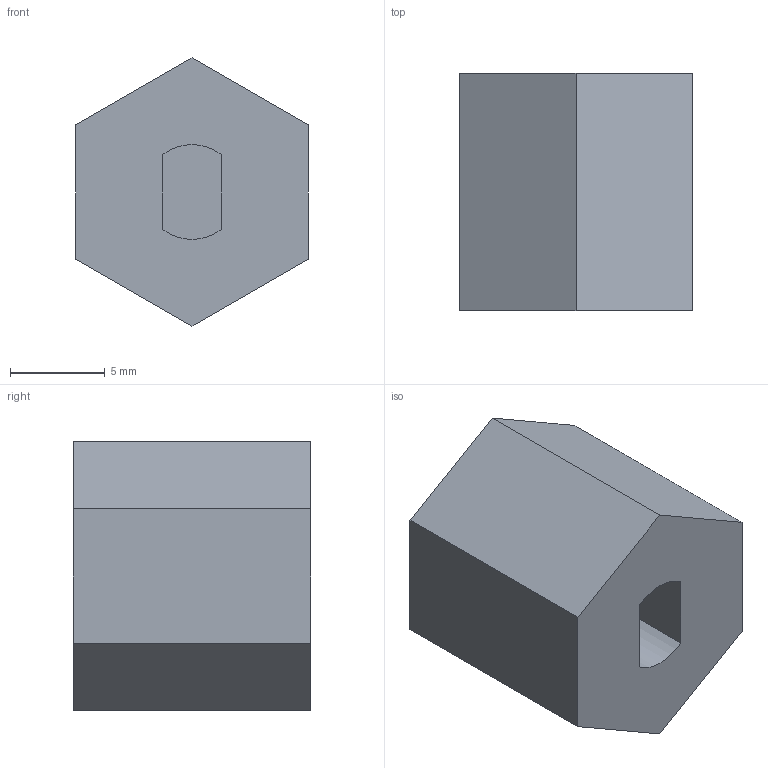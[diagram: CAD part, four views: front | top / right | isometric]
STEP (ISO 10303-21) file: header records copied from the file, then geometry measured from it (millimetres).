
FILE_DESCRIPTION(/* description */ ('STEP AP242 Edition 2','CAx-IF Rec.Pracs.---Representation and Presentation of Product Manufacturing Information (PMI)---4.0---2014-10-13','CAx-IF Rec.Pracs.---3D Tessellated Geometry---0.4---2014-09-14','2;1','CAx-IF Rec.Pracs.---User Defined Attributes---1.5---2016-08-15'),/* implementation_level */ '2;1');
FILE_NAME(/* name */ 'Part Studio 1 - coupler_v3',/* time_stamp */ '2026-02-04T12:55:34Z',/* author */ (''),/* organization */ (''),/* preprocessor_version */ 'ST-DEVELOPER v20',/* originating_system */ 'ONSHAPE BY PTC INC, 1.210',/* authorisation */ ' ');
FILE_SCHEMA (('AP242_MANAGED_MODEL_BASED_3D_ENGINEERING_MIM_LF { 1 0 10303 442 3 1 4 }'));
Length unit declared in the file: metre
Products named in the file (1): coupler_v3
Bounding box: 12.23 x 12.5 x 14.12 mm (x, y, z)
Volume: 1216 mm3; surface area: 1103.8 mm2
Topology: 1 solids, 1 shells, 22 faces, 51 edges, 34 vertices
Faces by surface type: plane 19, cylinder 3
Full cylindrical faces by diameter (mm): 5.384 x1
Entity records: 638 total; most frequent: CARTESIAN_POINT 107, DIRECTION 102, ORIENTED_EDGE 100, EDGE_CURVE 50, LINE 44, VECTOR 44, VERTEX_POINT 34, AXIS2_PLACEMENT_3D 29
